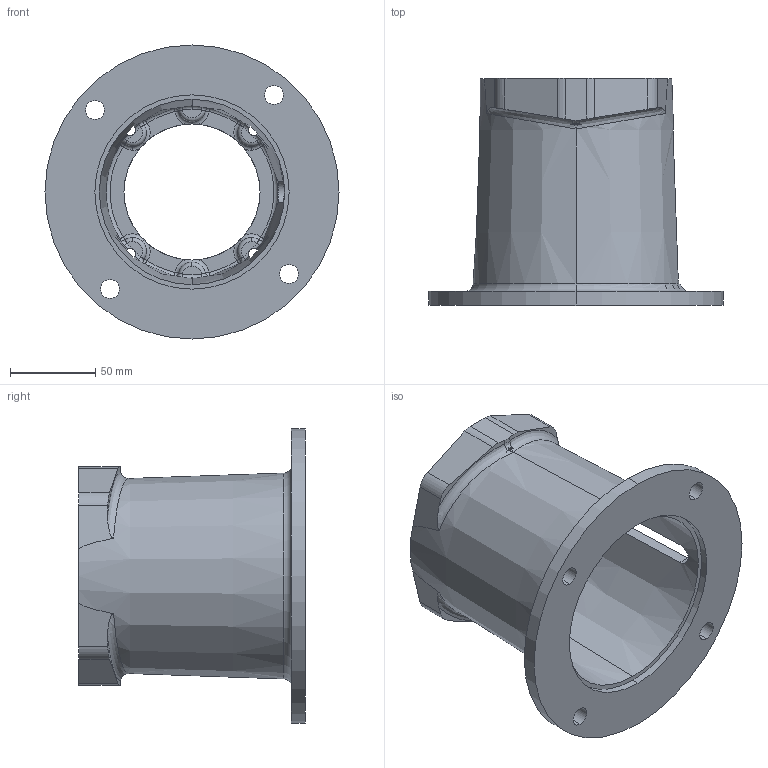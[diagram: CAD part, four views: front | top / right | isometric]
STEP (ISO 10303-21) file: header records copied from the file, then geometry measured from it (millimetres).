
FILE_DESCRIPTION (( 'STEP AP203' ), '1' );
FILE_NAME ('M0565280M.STEP', '2015-01-19T15:33:24', ( '' ), ( '' ), 'SwSTEP 2.0', 'SolidWorks 2014', '' );
FILE_SCHEMA (( 'CONFIG_CONTROL_DESIGN' ));
Length unit declared in the file: inch
Products named in the file (1): M0565280M
Bounding box: 172.97 x 133.35 x 172.97 mm (x, y, z)
Volume: 453997.3 mm3; surface area: 132684.7 mm2
Topology: 1 solids, 1 shells, 192 faces, 530 edges, 313 vertices
Faces by surface type: torus 46, cylinder 38, bspline 32, plane 32, sphere 24, cone 20
Entity records: 8340 total; most frequent: CARTESIAN_POINT 3653, ORIENTED_EDGE 1024, DIRECTION 960, EDGE_CURVE 512, AXIS2_PLACEMENT_3D 439, VERTEX_POINT 313, CIRCLE 278, EDGE_LOOP 211
